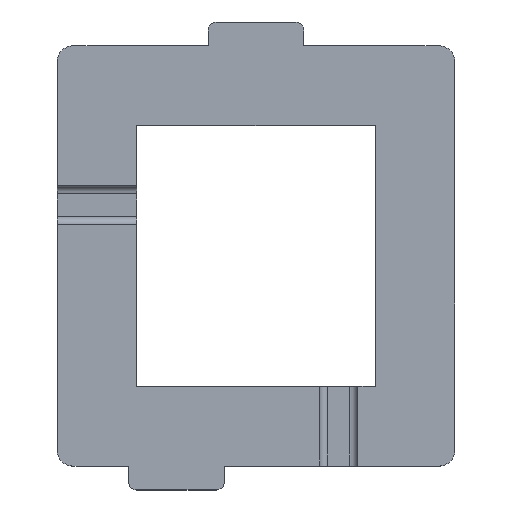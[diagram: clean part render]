
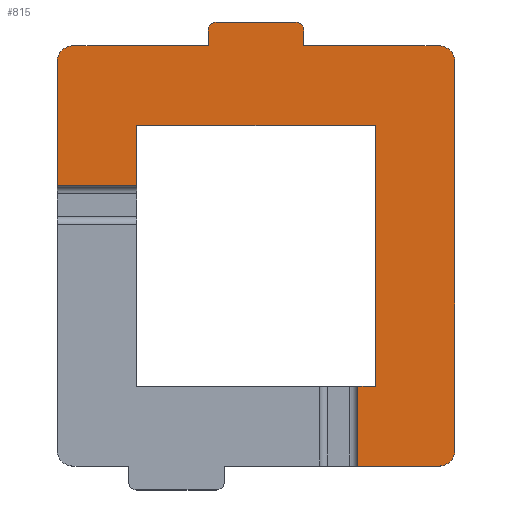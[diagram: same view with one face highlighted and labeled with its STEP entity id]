
A CAD part, top view. The second image highlights one B-rep face of the part: STEP entity #815.
In plain terms, the highlighted planar face has unit normal (0, 0, 1).
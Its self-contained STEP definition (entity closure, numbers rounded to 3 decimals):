
#25=PLANE('',#881);
#56=FACE_OUTER_BOUND('',#101,.T.);
#101=EDGE_LOOP('',(#595,#596,#597,#598,#599,#600,#601,#602,#603,#604,#605,
#606,#607,#608,#609,#610,#611,#612,#613));
#154=LINE('',#1220,#242);
#160=LINE('',#1231,#248);
#169=LINE('',#1256,#257);
#170=LINE('',#1258,#258);
#171=LINE('',#1260,#259);
#172=LINE('',#1262,#260);
#173=LINE('',#1264,#261);
#174=LINE('',#1268,#262);
#175=LINE('',#1272,#263);
#176=LINE('',#1274,#264);
#177=LINE('',#1278,#265);
#178=LINE('',#1282,#266);
#179=LINE('',#1284,#267);
#180=LINE('',#1287,#268);
#242=VECTOR('',#974,10.);
#248=VECTOR('',#982,10.);
#257=VECTOR('',#1001,10.);
#258=VECTOR('',#1002,10.);
#259=VECTOR('',#1003,10.);
#260=VECTOR('',#1004,10.);
#261=VECTOR('',#1005,10.);
#262=VECTOR('',#1008,10.);
#263=VECTOR('',#1011,10.);
#264=VECTOR('',#1012,10.);
#265=VECTOR('',#1015,10.);
#266=VECTOR('',#1018,10.);
#267=VECTOR('',#1019,10.);
#268=VECTOR('',#1022,10.);
#327=CIRCLE('',#882,1.);
#328=CIRCLE('',#883,1.);
#329=CIRCLE('',#884,0.5);
#330=CIRCLE('',#885,0.5);
#331=CIRCLE('',#886,1.);
#362=VERTEX_POINT('',#1217);
#363=VERTEX_POINT('',#1219);
#367=VERTEX_POINT('',#1229);
#378=VERTEX_POINT('',#1255);
#379=VERTEX_POINT('',#1257);
#380=VERTEX_POINT('',#1259);
#381=VERTEX_POINT('',#1261);
#382=VERTEX_POINT('',#1263);
#383=VERTEX_POINT('',#1265);
#384=VERTEX_POINT('',#1267);
#385=VERTEX_POINT('',#1269);
#386=VERTEX_POINT('',#1271);
#387=VERTEX_POINT('',#1273);
#388=VERTEX_POINT('',#1275);
#389=VERTEX_POINT('',#1277);
#390=VERTEX_POINT('',#1279);
#391=VERTEX_POINT('',#1281);
#392=VERTEX_POINT('',#1283);
#393=VERTEX_POINT('',#1285);
#446=EDGE_CURVE('',#363,#362,#154,.T.);
#452=EDGE_CURVE('',#362,#367,#160,.T.);
#464=EDGE_CURVE('',#367,#378,#169,.T.);
#465=EDGE_CURVE('',#378,#379,#170,.T.);
#466=EDGE_CURVE('',#379,#380,#171,.T.);
#467=EDGE_CURVE('',#380,#381,#172,.T.);
#468=EDGE_CURVE('',#381,#382,#173,.T.);
#469=EDGE_CURVE('',#383,#382,#327,.T.);
#470=EDGE_CURVE('',#383,#384,#174,.T.);
#471=EDGE_CURVE('',#385,#384,#328,.T.);
#472=EDGE_CURVE('',#385,#386,#175,.T.);
#473=EDGE_CURVE('',#386,#387,#176,.T.);
#474=EDGE_CURVE('',#388,#387,#329,.T.);
#475=EDGE_CURVE('',#388,#389,#177,.T.);
#476=EDGE_CURVE('',#390,#389,#330,.T.);
#477=EDGE_CURVE('',#390,#391,#178,.T.);
#478=EDGE_CURVE('',#391,#392,#179,.T.);
#479=EDGE_CURVE('',#393,#392,#331,.T.);
#480=EDGE_CURVE('',#393,#363,#180,.T.);
#595=ORIENTED_EDGE('',*,*,#446,.T.);
#596=ORIENTED_EDGE('',*,*,#452,.T.);
#597=ORIENTED_EDGE('',*,*,#464,.T.);
#598=ORIENTED_EDGE('',*,*,#465,.T.);
#599=ORIENTED_EDGE('',*,*,#466,.T.);
#600=ORIENTED_EDGE('',*,*,#467,.T.);
#601=ORIENTED_EDGE('',*,*,#468,.T.);
#602=ORIENTED_EDGE('',*,*,#469,.F.);
#603=ORIENTED_EDGE('',*,*,#470,.T.);
#604=ORIENTED_EDGE('',*,*,#471,.F.);
#605=ORIENTED_EDGE('',*,*,#472,.T.);
#606=ORIENTED_EDGE('',*,*,#473,.T.);
#607=ORIENTED_EDGE('',*,*,#474,.F.);
#608=ORIENTED_EDGE('',*,*,#475,.T.);
#609=ORIENTED_EDGE('',*,*,#476,.F.);
#610=ORIENTED_EDGE('',*,*,#477,.T.);
#611=ORIENTED_EDGE('',*,*,#478,.T.);
#612=ORIENTED_EDGE('',*,*,#479,.F.);
#613=ORIENTED_EDGE('',*,*,#480,.T.);
#815=ADVANCED_FACE('',(#56),#25,.T.);
#881=AXIS2_PLACEMENT_3D('',#1254,#999,#1000);
#882=AXIS2_PLACEMENT_3D('',#1266,#1006,#1007);
#883=AXIS2_PLACEMENT_3D('',#1270,#1009,#1010);
#884=AXIS2_PLACEMENT_3D('',#1276,#1013,#1014);
#885=AXIS2_PLACEMENT_3D('',#1280,#1016,#1017);
#886=AXIS2_PLACEMENT_3D('',#1286,#1020,#1021);
#974=DIRECTION('',(1.,0.,0.));
#982=DIRECTION('',(0.,1.,0.));
#999=DIRECTION('center_axis',(0.,0.,1.));
#1000=DIRECTION('ref_axis',(1.,0.,0.));
#1001=DIRECTION('',(1.,0.,0.));
#1002=DIRECTION('',(0.,-1.,0.));
#1003=DIRECTION('',(-1.,0.,0.));
#1004=DIRECTION('',(0.,-1.,0.));
#1005=DIRECTION('',(1.,0.,0.));
#1006=DIRECTION('center_axis',(0.,0.,-1.));
#1007=DIRECTION('ref_axis',(0.707,-0.707,0.));
#1008=DIRECTION('',(0.,1.,0.));
#1009=DIRECTION('center_axis',(0.,0.,-1.));
#1010=DIRECTION('ref_axis',(0.707,0.707,0.));
#1011=DIRECTION('',(-1.,0.,0.));
#1012=DIRECTION('',(0.,1.,0.));
#1013=DIRECTION('center_axis',(0.,0.,-1.));
#1014=DIRECTION('ref_axis',(0.707,0.707,0.));
#1015=DIRECTION('',(-1.,0.,0.));
#1016=DIRECTION('center_axis',(0.,0.,-1.));
#1017=DIRECTION('ref_axis',(-0.707,0.707,0.));
#1018=DIRECTION('',(0.,-1.,0.));
#1019=DIRECTION('',(-1.,0.,0.));
#1020=DIRECTION('center_axis',(0.,0.,-1.));
#1021=DIRECTION('ref_axis',(-0.707,0.707,0.));
#1022=DIRECTION('',(0.,-1.,0.));
#1217=CARTESIAN_POINT('',(-7.5,3.7,3.));
#1219=CARTESIAN_POINT('',(-12.5,3.7,3.));
#1220=CARTESIAN_POINT('',(-6.25,3.7,3.));
#1229=CARTESIAN_POINT('',(-7.5,7.5,3.));
#1231=CARTESIAN_POINT('',(-7.5,7.5,3.));
#1254=CARTESIAN_POINT('Origin',(0.,-0.7,
3.));
#1255=CARTESIAN_POINT('',(7.5,7.5,3.));
#1256=CARTESIAN_POINT('',(7.5,7.5,3.));
#1257=CARTESIAN_POINT('',(7.5,-8.9,3.));
#1258=CARTESIAN_POINT('',(7.5,-8.9,3.));
#1259=CARTESIAN_POINT('',(6.4,-8.9,3.));
#1260=CARTESIAN_POINT('',(-7.5,-8.9,3.));
#1261=CARTESIAN_POINT('',(6.4,-13.9,3.));
#1262=CARTESIAN_POINT('',(6.4,-7.3,3.));
#1263=CARTESIAN_POINT('',(11.5,-13.9,3.));
#1264=CARTESIAN_POINT('',(-12.5,-13.9,3.));
#1265=CARTESIAN_POINT('',(12.5,-12.9,3.));
#1266=CARTESIAN_POINT('Origin',(11.5,-12.9,3.));
#1267=CARTESIAN_POINT('',(12.5,11.5,3.));
#1268=CARTESIAN_POINT('',(12.5,-13.9,3.));
#1269=CARTESIAN_POINT('',(11.5,12.5,3.));
#1270=CARTESIAN_POINT('Origin',(11.5,11.5,3.));
#1271=CARTESIAN_POINT('',(3.,12.5,3.));
#1272=CARTESIAN_POINT('',(12.5,12.5,3.));
#1273=CARTESIAN_POINT('',(3.,13.5,3.));
#1274=CARTESIAN_POINT('',(3.,14.,3.));
#1275=CARTESIAN_POINT('',(2.5,14.,3.));
#1276=CARTESIAN_POINT('Origin',(2.5,13.5,3.));
#1277=CARTESIAN_POINT('',(-2.5,14.,3.));
#1278=CARTESIAN_POINT('',(-3.,14.,3.));
#1279=CARTESIAN_POINT('',(-3.,13.5,3.));
#1280=CARTESIAN_POINT('Origin',(-2.5,13.5,3.));
#1281=CARTESIAN_POINT('',(-3.,12.5,3.));
#1282=CARTESIAN_POINT('',(-3.,11.,3.));
#1283=CARTESIAN_POINT('',(-11.5,12.5,3.));
#1284=CARTESIAN_POINT('',(12.5,12.5,3.));
#1285=CARTESIAN_POINT('',(-12.5,11.5,3.));
#1286=CARTESIAN_POINT('Origin',(-11.5,11.5,3.));
#1287=CARTESIAN_POINT('',(-12.5,12.5,3.));
